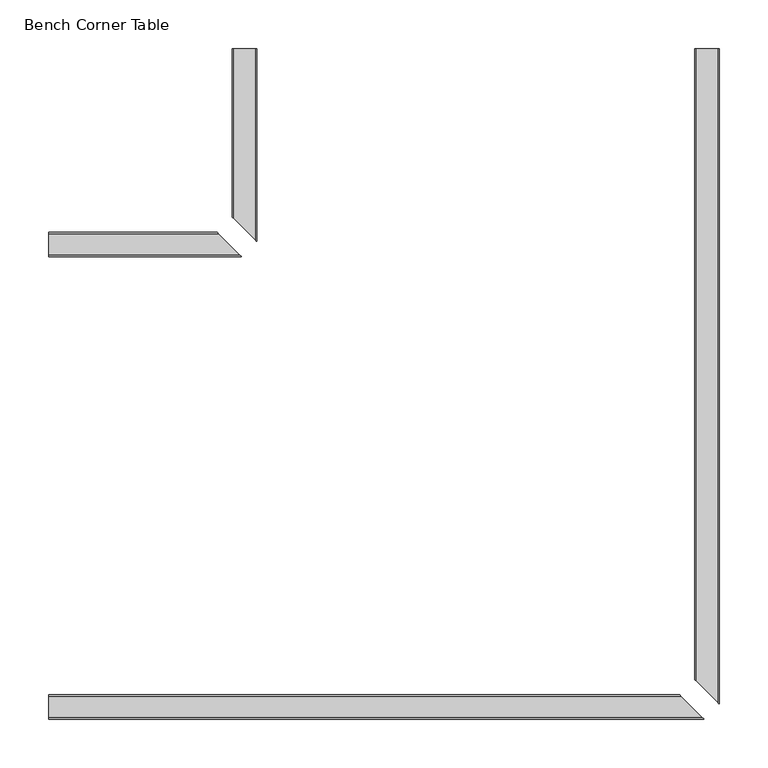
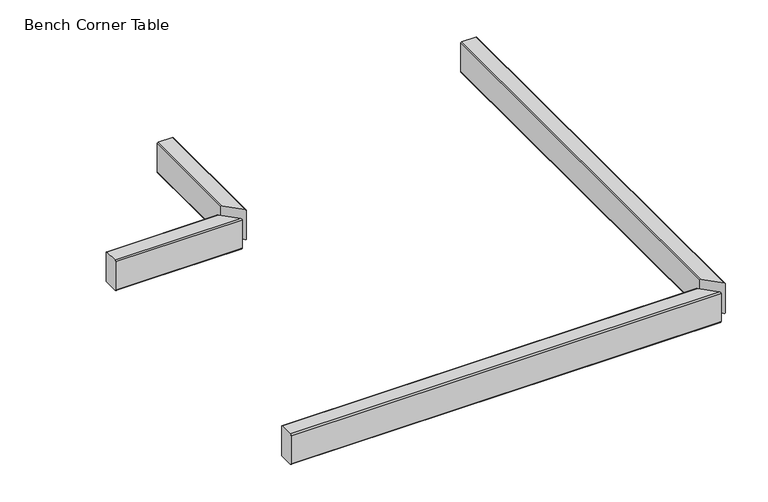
"""IFC4 building model written with IfcOpenShell, lengths in millimetres: furniture geometry, Stylex - NYC - Table : Bench Corner Table."""

from ifc_helpers import new_model, si_unit, frame, origin, place, context, project, spatial, circle_curve, ellipse_curve, source, transform, mapped, element, save
from ifc_brep_helpers import plane_surface, cylinder_surface, advanced_brep


def bench_corner_table_5ebf23bb(model_context):
    return source(origin(), model_context, "Body", "AdvancedBrep", [
        advanced_brep(
        [(-438.150109, -248.4435481, 220.681021), (-438.150109, -226.2185481, 220.681021), (-438.150109, -224.6310481, 219.093521), (-438.150109, -224.6310481, 172.3026624), (-438.150109, -226.2185481, 170.7151624), (-438.150109, -248.4435481, 170.7151624), (-438.150109, -250.0310481, 172.3026624), (-438.150109, -250.0310481, 219.093521), (234.3155998, -250.0310481, 219.093521), (232.7280998, -248.4435481, 220.681021), (234.3155998, -250.0310481, 172.3026624), (232.7280998, -248.4435481, 170.7151624), (208.9155998, -224.6310481, 172.3026624), (210.5030998, -226.2185481, 170.7151624), (208.9155998, -224.6310481, 219.093521), (210.5030998, -226.2185481, 220.681021)],
        [
            (0, 1),
            (1, 2, circle_curve(frame((-438.150109, -226.2185481, 219.093521), z_axis=(-1.0, 0.0, 0.0), x_axis=(0.0, -1.0, 0.0)), 1.5875)),
            (2, 3),
            (3, 4, circle_curve(frame((-438.150109, -226.2185481, 172.3026624), z_axis=(-1.0, 0.0, 0.0), x_axis=(0.0, -1.0, 0.0)), 1.5875)),
            (4, 5),
            (5, 6, circle_curve(frame((-438.150109, -248.4435481, 172.3026624), z_axis=(-1.0, 0.0, 0.0), x_axis=(0.0, -1.0, 0.0)), 1.5875)),
            (6, 7),
            (7, 0, circle_curve(frame((-438.150109, -248.4435481, 219.093521), z_axis=(-1.0, 0.0, 0.0), x_axis=(0.0, -1.0, 0.0)), 1.5875)),
            (7, 8),
            (8, 9, ellipse_curve(frame((232.7280998, -248.4435481, 219.093521), z_axis=(-0.7071067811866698, -0.7071067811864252, 0.0), x_axis=(-0.7071067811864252, 0.7071067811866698, 0.0)), 2.245064, 1.5875)),
            (9, 0),
            (6, 10),
            (10, 8),
            (5, 11),
            (11, 10, ellipse_curve(frame((232.7280998, -248.4435481, 172.3026624), z_axis=(-0.7071067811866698, -0.7071067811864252, 0.0), x_axis=(-0.7071067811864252, 0.7071067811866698, 0.0)), 2.245064, 1.5875)),
            (3, 12),
            (12, 13, ellipse_curve(frame((210.5030998, -226.2185481, 172.3026624), z_axis=(-0.7071067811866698, -0.7071067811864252, 0.0), x_axis=(-0.7071067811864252, 0.7071067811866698, 0.0)), 2.245064, 1.5875)),
            (13, 4),
            (2, 14),
            (14, 12),
            (1, 15),
            (15, 14, ellipse_curve(frame((210.5030998, -226.2185481, 219.093521), z_axis=(-0.7071067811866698, -0.7071067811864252, 0.0), x_axis=(-0.7071067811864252, 0.7071067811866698, 0.0)), 2.245064, 1.5875)),
            (11, 13),
            (15, 9),
        ],
        [
            plane_surface(frame((-438.150109, 0.0, 0.0), z_axis=(-1.0, 0.0, 0.0), x_axis=(0.0, 0.0, 1.0))),
            cylinder_surface(frame((-438.150109, -248.4435481, 219.093521), z_axis=(-1.0, 0.0, 0.0), x_axis=(0.0, -1.0, 0.0)), 1.5875),
            plane_surface(frame((-438.150109, -250.0310481, 219.093521), z_axis=(0.0, -1.0, 0.0), x_axis=(1.0, 0.0, 0.0))),
            cylinder_surface(frame((-438.150109, -248.4435481, 172.3026624), z_axis=(-1.0, 0.0, 0.0), x_axis=(0.0, -1.0, 0.0)), 1.5875),
            cylinder_surface(frame((-438.150109, -226.2185481, 172.3026624), z_axis=(-1.0, 0.0, 0.0), x_axis=(0.0, -1.0, 0.0)), 1.5875),
            plane_surface(frame((-438.150109, -224.6310481, 172.3026624), z_axis=(0.0, 1.0, 0.0), x_axis=(1.0, 0.0, 0.0))),
            cylinder_surface(frame((-438.150109, -226.2185481, 219.093521), z_axis=(-1.0, 0.0, 0.0), x_axis=(0.0, -1.0, 0.0)), 1.5875),
            plane_surface(frame((251.0279476, -266.7433959, 232.7568181), z_axis=(0.7071067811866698, 0.7071067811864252, 0.0), x_axis=(0.0, 0.0, -1.0))),
            plane_surface(frame((-438.150109, -248.4435481, 170.7151624), z_axis=(0.0, 0.0, -1.0), x_axis=(1.0, 0.0, 0.0))),
            plane_surface(frame((-438.150109, -226.2185481, 220.681021), z_axis=(0.0, 0.0, 1.0), x_axis=(1.0, 0.0, 0.0))),
        ],
        [
            (0, [[1, 2, 3, 4, 5, 6, 7, 8]]),
            (1, [[9, 10, 11, -8]]),
            (2, [[12, 13, -9, -7]]),
            (3, [[14, 15, -12, -6]]),
            (4, [[16, 17, 18, -4]]),
            (5, [[19, 20, -16, -3]]),
            (6, [[21, 22, -19, -2]]),
            (7, [[-13, -15, 23, -17, -20, -22, 24, -10]]),
            (8, [[-18, -23, -14, -5]]),
            (9, [[-11, -24, -21, -1]]),
        ],
    ),
        advanced_brep(
        [(-438.150109, 226.2191858, 220.681021), (-438.150109, 248.4441858, 220.681021), (-438.150109, 250.0316858, 219.093521), (-438.150109, 250.0316858, 172.3026624), (-438.150109, 248.4441858, 170.7151624), (-438.150109, 226.2191858, 170.7151624), (-438.150109, 224.6316858, 172.3026624), (-438.150109, 224.6316858, 219.093521), (-240.347134, 224.6316858, 219.093521), (-241.934634, 226.2191858, 220.681021), (-240.347134, 224.6316858, 172.3026624), (-241.934634, 226.2191858, 170.7151624), (-265.747134, 250.0316858, 172.3026624), (-264.159634, 248.4441858, 170.7151624), (-265.747134, 250.0316858, 219.093521), (-264.159634, 248.4441858, 220.681021)],
        [
            (0, 1),
            (1, 2, circle_curve(frame((-438.150109, 248.4441858, 219.093521), z_axis=(-1.0, 0.0, 0.0), x_axis=(0.0, -1.0, 0.0)), 1.5875)),
            (2, 3),
            (3, 4, circle_curve(frame((-438.150109, 248.4441858, 172.3026624), z_axis=(-1.0, 0.0, 0.0), x_axis=(0.0, -1.0, 0.0)), 1.5875)),
            (4, 5),
            (5, 6, circle_curve(frame((-438.150109, 226.2191858, 172.3026624), z_axis=(-1.0, 0.0, 0.0), x_axis=(0.0, -1.0, 0.0)), 1.5875)),
            (6, 7),
            (7, 0, circle_curve(frame((-438.150109, 226.2191858, 219.093521), z_axis=(-1.0, 0.0, 0.0), x_axis=(0.0, -1.0, 0.0)), 1.5875)),
            (7, 8),
            (8, 9, ellipse_curve(frame((-241.934634, 226.2191858, 219.093521), z_axis=(-0.7071067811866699, -0.7071067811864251, 0.0), x_axis=(-0.7071067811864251, 0.7071067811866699, 0.0)), 2.245064, 1.5875)),
            (9, 0),
            (6, 10),
            (10, 8),
            (5, 11),
            (11, 10, ellipse_curve(frame((-241.934634, 226.2191858, 172.3026624), z_axis=(-0.7071067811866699, -0.7071067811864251, 0.0), x_axis=(-0.7071067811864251, 0.7071067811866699, 0.0)), 2.245064, 1.5875)),
            (3, 12),
            (12, 13, ellipse_curve(frame((-264.159634, 248.4441858, 172.3026624), z_axis=(-0.7071067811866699, -0.7071067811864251, 0.0), x_axis=(-0.7071067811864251, 0.7071067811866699, 0.0)), 2.245064, 1.5875)),
            (13, 4),
            (2, 14),
            (14, 12),
            (1, 15),
            (15, 14, ellipse_curve(frame((-264.159634, 248.4441858, 219.093521), z_axis=(-0.7071067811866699, -0.7071067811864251, 0.0), x_axis=(-0.7071067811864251, 0.7071067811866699, 0.0)), 2.245064, 1.5875)),
            (11, 13),
            (15, 9),
        ],
        [
            plane_surface(frame((-438.150109, 0.0, 0.0), z_axis=(-1.0, 0.0, 0.0), x_axis=(0.0, 0.0, 1.0))),
            cylinder_surface(frame((-438.150109, 226.2191858, 219.093521), z_axis=(-1.0, 0.0, 0.0), x_axis=(0.0, -1.0, 0.0)), 1.5875),
            plane_surface(frame((-438.150109, 224.6316858, 219.093521), z_axis=(0.0, -1.0, 0.0), x_axis=(1.0, 0.0, 0.0))),
            cylinder_surface(frame((-438.150109, 226.2191858, 172.3026624), z_axis=(-1.0, 0.0, 0.0), x_axis=(0.0, -1.0, 0.0)), 1.5875),
            cylinder_surface(frame((-438.150109, 248.4441858, 172.3026624), z_axis=(-1.0, 0.0, 0.0), x_axis=(0.0, -1.0, 0.0)), 1.5875),
            plane_surface(frame((-438.150109, 250.0316858, 172.3026624), z_axis=(0.0, 1.0, 0.0), x_axis=(1.0, 0.0, 0.0))),
            cylinder_surface(frame((-438.150109, 248.4441858, 219.093521), z_axis=(-1.0, 0.0, 0.0), x_axis=(0.0, -1.0, 0.0)), 1.5875),
            plane_surface(frame((-205.6264711, 189.9110229, 232.7568181), z_axis=(0.7071067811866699, 0.7071067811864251, 0.0), x_axis=(0.0, 0.0, -1.0))),
            plane_surface(frame((-438.150109, 226.2191858, 170.7151624), z_axis=(0.0, 0.0, -1.0), x_axis=(1.0, 0.0, 0.0))),
            plane_surface(frame((-438.150109, 248.4441858, 220.681021), z_axis=(0.0, 0.0, 1.0), x_axis=(1.0, 0.0, 0.0))),
        ],
        [
            (0, [[1, 2, 3, 4, 5, 6, 7, 8]]),
            (1, [[9, 10, 11, -8]]),
            (2, [[12, 13, -9, -7]]),
            (3, [[14, 15, -12, -6]]),
            (4, [[16, 17, 18, -4]]),
            (5, [[19, 20, -16, -3]]),
            (6, [[21, 22, -19, -2]]),
            (7, [[-13, -15, 23, -17, -20, -22, 24, -10]]),
            (8, [[-18, -23, -14, -5]]),
            (9, [[-11, -24, -21, -1]]),
        ],
    ),
        advanced_brep(
        [(248.4435481, 438.1499868, 220.681021), (250.0310481, 438.1499868, 219.093521), (250.0310481, 438.1499868, 172.3026624), (248.4435481, 438.1499868, 170.7151624), (226.2185481, 438.1499868, 170.7151624), (224.6310481, 438.1499868, 172.3026624), (224.6310481, 438.1499868, 219.093521), (226.2185481, 438.1499868, 220.681021), (248.4435481, -232.7280998, 170.7151624), (250.0310481, -234.3155998, 172.3026624), (250.0310481, -234.3155998, 219.093521), (248.4435481, -232.7280998, 220.681021), (226.2185481, -210.5030998, 220.681021), (224.6310481, -208.9155998, 219.093521), (224.6310481, -208.9155998, 172.3026624), (226.2185481, -210.5030998, 170.7151624)],
        [
            (0, 1, circle_curve(frame((248.4435481, 438.1499868, 219.093521), z_axis=(0.0, 1.0, 0.0), x_axis=(1.0, 0.0, 0.0)), 1.5875)),
            (1, 2),
            (2, 3, circle_curve(frame((248.4435481, 438.1499868, 172.3026624), z_axis=(0.0, 1.0, 0.0), x_axis=(1.0, 0.0, 0.0)), 1.5875)),
            (3, 4),
            (4, 5, circle_curve(frame((226.2185481, 438.1499868, 172.3026624), z_axis=(0.0, 1.0, 0.0), x_axis=(1.0, 0.0, 0.0)), 1.5875)),
            (5, 6),
            (6, 7, circle_curve(frame((226.2185481, 438.1499868, 219.093521), z_axis=(0.0, 1.0, 0.0), x_axis=(1.0, 0.0, 0.0)), 1.5875)),
            (7, 0),
            (8, 9, ellipse_curve(frame((248.4435481, -232.7280998, 172.3026624), z_axis=(-0.707106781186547, -0.707106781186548, 0.0), x_axis=(0.7071067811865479, -0.707106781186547, 0.0)), 2.245064, 1.5875)),
            (9, 10),
            (10, 11, ellipse_curve(frame((248.4435481, -232.7280998, 219.093521), z_axis=(-0.707106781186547, -0.707106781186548, 0.0), x_axis=(0.7071067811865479, -0.707106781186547, 0.0)), 2.245064, 1.5875)),
            (11, 12),
            (12, 13, ellipse_curve(frame((226.2185481, -210.5030998, 219.093521), z_axis=(-0.707106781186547, -0.707106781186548, 0.0), x_axis=(0.7071067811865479, -0.707106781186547, 0.0)), 2.245064, 1.5875)),
            (13, 14),
            (14, 15, ellipse_curve(frame((226.2185481, -210.5030998, 172.3026624), z_axis=(-0.707106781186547, -0.707106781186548, 0.0), x_axis=(0.7071067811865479, -0.707106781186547, 0.0)), 2.245064, 1.5875)),
            (15, 8),
            (3, 8),
            (15, 4),
            (7, 12),
            (11, 0),
            (10, 1),
            (9, 2),
            (14, 5),
            (13, 6),
        ],
        [
            plane_surface(frame((0.0, 438.1499868, 0.0), z_axis=(0.0, 1.0, 0.0), x_axis=(0.0, 0.0, 1.0))),
            plane_surface(frame((221.8421153, -206.126667, 232.7568181), z_axis=(-0.707106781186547, -0.707106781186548, 0.0), x_axis=(0.0, 0.0, -1.0))),
            plane_surface(frame((-438.150109, -248.4435481, 170.7151624), z_axis=(0.0, 0.0, -1.0), x_axis=(1.0, 0.0, 0.0))),
            plane_surface(frame((-438.150109, -226.2185481, 220.681021), z_axis=(0.0, 0.0, 1.0), x_axis=(1.0, 0.0, 0.0))),
            cylinder_surface(frame((248.4435481, 0.0, 219.093521), z_axis=(0.0, -1.0, 0.0), x_axis=(1.0, 0.0, 0.0)), 1.5875),
            plane_surface(frame((250.0310481, -250.0310481, 219.093521), z_axis=(1.0, 0.0, 0.0), x_axis=(0.0, 1.0, 0.0))),
            cylinder_surface(frame((248.4435481, 0.0, 172.3026624), z_axis=(0.0, -1.0, 0.0), x_axis=(1.0, 0.0, 0.0)), 1.5875),
            cylinder_surface(frame((226.2185481, 0.0, 172.3026624), z_axis=(0.0, -1.0, 0.0), x_axis=(1.0, 0.0, 0.0)), 1.5875),
            plane_surface(frame((224.6310481, -224.6310481, 172.3026624), z_axis=(-1.0, 0.0, 0.0), x_axis=(0.0, 1.0, 0.0))),
            cylinder_surface(frame((226.2185481, 0.0, 219.093521), z_axis=(0.0, -1.0, 0.0), x_axis=(1.0, 0.0, 0.0)), 1.5875),
        ],
        [
            (0, [[1, 2, 3, 4, 5, 6, 7, 8]]),
            (1, [[9, 10, 11, 12, 13, 14, 15, 16]]),
            (2, [[17, -16, 18, -4]]),
            (3, [[19, -12, 20, -8]]),
            (4, [[-20, -11, 21, -1]]),
            (5, [[-21, -10, 22, -2]]),
            (6, [[-22, -9, -17, -3]]),
            (7, [[-18, -15, 23, -5]]),
            (8, [[-23, -14, 24, -6]]),
            (9, [[-24, -13, -19, -7]]),
        ],
    ),
        advanced_brep(
        [(-226.2191858, 438.1499868, 220.681021), (-224.6316858, 438.1499868, 219.093521), (-224.6316858, 438.1499868, 172.3026624), (-226.2191858, 438.1499868, 170.7151624), (-248.4441858, 438.1499868, 170.7151624), (-250.0316858, 438.1499868, 172.3026624), (-250.0316858, 438.1499868, 219.093521), (-248.4441858, 438.1499868, 220.681021), (-226.2191858, 241.934634, 170.7151624), (-224.6316858, 240.347134, 172.3026624), (-224.6316858, 240.347134, 219.093521), (-226.2191858, 241.934634, 220.681021), (-248.4441858, 264.159634, 220.681021), (-250.0316858, 265.747134, 219.093521), (-250.0316858, 265.747134, 172.3026624), (-248.4441858, 264.159634, 170.7151624)],
        [
            (0, 1, circle_curve(frame((-226.2191858, 438.1499868, 219.093521), z_axis=(0.0, 1.0, 0.0), x_axis=(1.0, 0.0, 0.0)), 1.5875)),
            (1, 2),
            (2, 3, circle_curve(frame((-226.2191858, 438.1499868, 172.3026624), z_axis=(0.0, 1.0, 0.0), x_axis=(1.0, 0.0, 0.0)), 1.5875)),
            (3, 4),
            (4, 5, circle_curve(frame((-248.4441858, 438.1499868, 172.3026624), z_axis=(0.0, 1.0, 0.0), x_axis=(1.0, 0.0, 0.0)), 1.5875)),
            (5, 6),
            (6, 7, circle_curve(frame((-248.4441858, 438.1499868, 219.093521), z_axis=(0.0, 1.0, 0.0), x_axis=(1.0, 0.0, 0.0)), 1.5875)),
            (7, 0),
            (8, 9, ellipse_curve(frame((-226.2191858, 241.934634, 172.3026624), z_axis=(-0.7071067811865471, -0.707106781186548, 0.0), x_axis=(0.7071067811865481, -0.707106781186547, 0.0)), 2.245064, 1.5875)),
            (9, 10),
            (10, 11, ellipse_curve(frame((-226.2191858, 241.934634, 219.093521), z_axis=(-0.7071067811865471, -0.707106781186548, 0.0), x_axis=(0.7071067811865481, -0.707106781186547, 0.0)), 2.245064, 1.5875)),
            (11, 12),
            (12, 13, ellipse_curve(frame((-248.4441858, 264.159634, 219.093521), z_axis=(-0.7071067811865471, -0.707106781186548, 0.0), x_axis=(0.7071067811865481, -0.707106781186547, 0.0)), 2.245064, 1.5875)),
            (13, 14),
            (14, 15, ellipse_curve(frame((-248.4441858, 264.159634, 172.3026624), z_axis=(-0.7071067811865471, -0.707106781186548, 0.0), x_axis=(0.7071067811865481, -0.707106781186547, 0.0)), 2.245064, 1.5875)),
            (15, 8),
            (3, 8),
            (15, 4),
            (7, 12),
            (11, 0),
            (10, 1),
            (9, 2),
            (14, 5),
            (13, 6),
        ],
        [
            plane_surface(frame((0.0, 438.1499868, 0.0), z_axis=(0.0, 1.0, 0.0), x_axis=(0.0, 0.0, 1.0))),
            plane_surface(frame((-274.5716029, 290.2870511, 232.7568181), z_axis=(-0.7071067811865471, -0.707106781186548, 0.0), x_axis=(0.0, 0.0, -1.0))),
            plane_surface(frame((-438.150109, 226.2191858, 170.7151624), z_axis=(0.0, 0.0, -1.0), x_axis=(1.0, 0.0, 0.0))),
            plane_surface(frame((-438.150109, 248.4441858, 220.681021), z_axis=(0.0, 0.0, 1.0), x_axis=(1.0, 0.0, 0.0))),
            cylinder_surface(frame((-226.2191858, 0.0, 219.093521), z_axis=(0.0, -1.0, 0.0), x_axis=(1.0, 0.0, 0.0)), 1.5875),
            plane_surface(frame((-224.6316858, 224.6316858, 219.093521), z_axis=(1.0, 0.0, 0.0), x_axis=(0.0, 1.0, 0.0))),
            cylinder_surface(frame((-226.2191858, 0.0, 172.3026624), z_axis=(0.0, -1.0, 0.0), x_axis=(1.0, 0.0, 0.0)), 1.5875),
            cylinder_surface(frame((-248.4441858, 0.0, 172.3026624), z_axis=(0.0, -1.0, 0.0), x_axis=(1.0, 0.0, 0.0)), 1.5875),
            plane_surface(frame((-250.0316858, 250.0316858, 172.3026624), z_axis=(-1.0, 0.0, 0.0), x_axis=(0.0, 1.0, 0.0))),
            cylinder_surface(frame((-248.4441858, 0.0, 219.093521), z_axis=(0.0, -1.0, 0.0), x_axis=(1.0, 0.0, 0.0)), 1.5875),
        ],
        [
            (0, [[1, 2, 3, 4, 5, 6, 7, 8]]),
            (1, [[9, 10, 11, 12, 13, 14, 15, 16]]),
            (2, [[17, -16, 18, -4]]),
            (3, [[19, -12, 20, -8]]),
            (4, [[-20, -11, 21, -1]]),
            (5, [[-21, -10, 22, -2]]),
            (6, [[-22, -9, -17, -3]]),
            (7, [[-18, -15, 23, -5]]),
            (8, [[-23, -14, 24, -6]]),
            (9, [[-24, -13, -19, -7]]),
        ],
    ),
    ])


if __name__ == "__main__":
    model = new_model("IFC4")
    model_context = context("Model", 3, world=origin())
    ifc_project = project(units=[si_unit("LENGTHUNIT", "METRE", prefix="MILLI")], contexts=[model_context])
    site = spatial("IfcSite", under=ifc_project)
    building = spatial("IfcBuilding", under=site)
    placement = place(None, origin())
    bench_corner_table_shape = bench_corner_table_5ebf23bb(model_context)
    element("IfcFurniture", 1, ObjectType="Stylex - NYC - Table : Bench Corner Table", at=placement, inside=building, context=model_context, shape_type="MappedRepresentation", body=[
        mapped(bench_corner_table_shape, transform((0.0, 0.0, 0.0), x_axis=(1.0, 0.0, 0.0), y_axis=(0.0, 1.0, 0.0), z_axis=(0.0, 0.0, 1.0))),
    ])
    save(model, "model.ifc")
